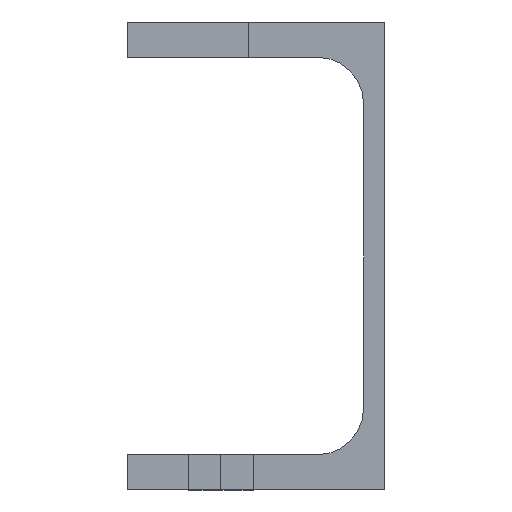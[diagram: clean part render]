
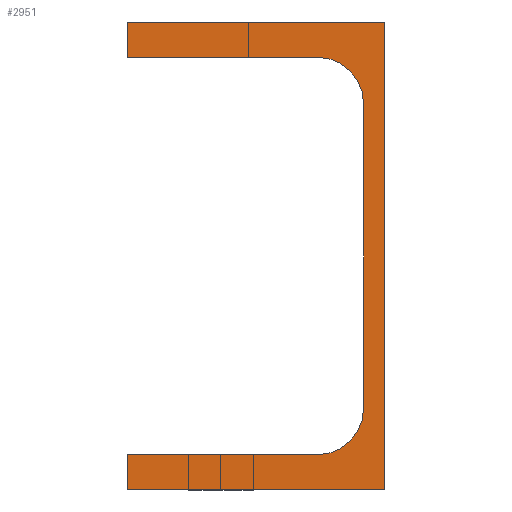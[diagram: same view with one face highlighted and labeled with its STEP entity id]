
A CAD part, left-side view. The second image highlights one B-rep face of the part: STEP entity #2951.
In plain terms, the highlighted planar face has unit normal (-1, 0, 0).
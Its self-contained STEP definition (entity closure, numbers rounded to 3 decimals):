
#101 = CARTESIAN_POINT ( 'NONE',  ( -55., 2014.5, 2372.5 ) ) ;
#122 = LINE ( 'NONE', #2868, #1643 ) ;
#220 = CARTESIAN_POINT ( 'NONE',  ( -55., 2000., 2290. ) ) ;
#234 = CARTESIAN_POINT ( 'NONE',  ( -55., 2055., 2390. ) ) ;
#352 = EDGE_CURVE ( 'NONE', #1534, #1949, #3183, .T. ) ;
#374 = VERTEX_POINT ( 'NONE', #3860 ) ;
#420 = DIRECTION ( 'NONE',  ( 0., 0., -1. ) ) ;
#461 = CIRCLE ( 'NONE', #2695, 10. ) ;
#470 = PLANE ( 'NONE',  #2176 ) ;
#545 = CARTESIAN_POINT ( 'NONE',  ( -55., 2055., 2382.5 ) ) ;
#605 = VECTOR ( 'NONE', #2396, 1000. ) ;
#626 = CARTESIAN_POINT ( 'NONE',  ( -55., 2000., 2390. ) ) ;
#872 = CARTESIAN_POINT ( 'NONE',  ( -55., 2055., 2290. ) ) ;
#922 = EDGE_CURVE ( 'NONE', #1690, #1534, #1828, .T. ) ;
#974 = CARTESIAN_POINT ( 'NONE',  ( -55., 2000., 2390. ) ) ;
#981 = LINE ( 'NONE', #626, #4281 ) ;
#984 = LINE ( 'NONE', #3052, #605 ) ;
#1021 = DIRECTION ( 'NONE',  ( 1., 0., 0. ) ) ;
#1120 = CARTESIAN_POINT ( 'NONE',  ( -55., 2004.5, 2307.5 ) ) ;
#1152 = VECTOR ( 'NONE', #3122, 1000. ) ;
#1256 = VERTEX_POINT ( 'NONE', #1120 ) ;
#1304 = ORIENTED_EDGE ( 'NONE', *, *, #922, .T. ) ;
#1312 = DIRECTION ( 'NONE',  ( 0., 1., 0. ) ) ;
#1379 = CARTESIAN_POINT ( 'NONE',  ( -55., 2014.5, 2297.5 ) ) ;
#1427 = VERTEX_POINT ( 'NONE', #234 ) ;
#1454 = DIRECTION ( 'NONE',  ( 1., 0., 0. ) ) ;
#1456 = CARTESIAN_POINT ( 'NONE',  ( -55., 2055., 2290. ) ) ;
#1534 = VERTEX_POINT ( 'NONE', #872 ) ;
#1634 = CARTESIAN_POINT ( 'NONE',  ( -55., 2055., 2382.5 ) ) ;
#1643 = VECTOR ( 'NONE', #4182, 1000. ) ;
#1690 = VERTEX_POINT ( 'NONE', #3592 ) ;
#1769 = ORIENTED_EDGE ( 'NONE', *, *, #352, .T. ) ;
#1828 = LINE ( 'NONE', #3515, #3735 ) ;
#1831 = CARTESIAN_POINT ( 'NONE',  ( -55., 3690., 2340. ) ) ;
#1926 = VERTEX_POINT ( 'NONE', #1634 ) ;
#1949 = VERTEX_POINT ( 'NONE', #220 ) ;
#2033 = EDGE_CURVE ( 'NONE', #374, #1256, #122, .T. ) ;
#2176 = AXIS2_PLACEMENT_3D ( 'NONE', #1831, #3758, #2860 ) ;
#2199 = VERTEX_POINT ( 'NONE', #4026 ) ;
#2260 = VECTOR ( 'NONE', #3774, 1000. ) ;
#2264 = VECTOR ( 'NONE', #3120, 1000. ) ;
#2379 = VECTOR ( 'NONE', #2468, 1000. ) ;
#2396 = DIRECTION ( 'NONE',  ( 0., 0., 1. ) ) ;
#2457 = EDGE_CURVE ( 'NONE', #1427, #1926, #3055, .T. ) ;
#2464 = LINE ( 'NONE', #1379, #2264 ) ;
#2468 = DIRECTION ( 'NONE',  ( 0., -1., 0. ) ) ;
#2695 = AXIS2_PLACEMENT_3D ( 'NONE', #3405, #1021, #3166 ) ;
#2860 = DIRECTION ( 'NONE',  ( 0., 0., 1. ) ) ;
#2868 = CARTESIAN_POINT ( 'NONE',  ( -55., 2004.5, 2372.5 ) ) ;
#2872 = ORIENTED_EDGE ( 'NONE', *, *, #3088, .T. ) ;
#2951 = ADVANCED_FACE ( 'NONE', ( #3072 ), #470, .T. ) ;
#3052 = CARTESIAN_POINT ( 'NONE',  ( -55., 2000., 2290. ) ) ;
#3055 = LINE ( 'NONE', #3433, #1152 ) ;
#3072 = FACE_OUTER_BOUND ( 'NONE', #4452, .T. ) ;
#3088 = EDGE_CURVE ( 'NONE', #3679, #374, #3696, .T. ) ;
#3120 = DIRECTION ( 'NONE',  ( 0., 1., 0. ) ) ;
#3122 = DIRECTION ( 'NONE',  ( 0., 0., -1. ) ) ;
#3154 = ORIENTED_EDGE ( 'NONE', *, *, #3633, .T. ) ;
#3166 = DIRECTION ( 'NONE',  ( 0., 0., 1. ) ) ;
#3183 = LINE ( 'NONE', #1456, #2379 ) ;
#3255 = ORIENTED_EDGE ( 'NONE', *, *, #3478, .T. ) ;
#3331 = ORIENTED_EDGE ( 'NONE', *, *, #3539, .T. ) ;
#3405 = CARTESIAN_POINT ( 'NONE',  ( -55., 2014.5, 2307.5 ) ) ;
#3433 = CARTESIAN_POINT ( 'NONE',  ( -55., 2055., 2390. ) ) ;
#3468 = ORIENTED_EDGE ( 'NONE', *, *, #3712, .T. ) ;
#3478 = EDGE_CURVE ( 'NONE', #1926, #3679, #4104, .T. ) ;
#3515 = CARTESIAN_POINT ( 'NONE',  ( -55., 2055., 2297.5 ) ) ;
#3539 = EDGE_CURVE ( 'NONE', #1256, #2199, #461, .T. ) ;
#3592 = CARTESIAN_POINT ( 'NONE',  ( -55., 2055., 2297.5 ) ) ;
#3633 = EDGE_CURVE ( 'NONE', #1949, #4250, #984, .T. ) ;
#3679 = VERTEX_POINT ( 'NONE', #4238 ) ;
#3696 = CIRCLE ( 'NONE', #4112, 10. ) ;
#3712 = EDGE_CURVE ( 'NONE', #2199, #1690, #2464, .T. ) ;
#3735 = VECTOR ( 'NONE', #420, 1000. ) ;
#3758 = DIRECTION ( 'NONE',  ( -1., 0., 0. ) ) ;
#3766 = DIRECTION ( 'NONE',  ( 0., 0., 1. ) ) ;
#3774 = DIRECTION ( 'NONE',  ( 0., -1., 0. ) ) ;
#3827 = ORIENTED_EDGE ( 'NONE', *, *, #2033, .T. ) ;
#3860 = CARTESIAN_POINT ( 'NONE',  ( -55., 2004.5, 2372.5 ) ) ;
#3906 = EDGE_CURVE ( 'NONE', #4250, #1427, #981, .T. ) ;
#3948 = ORIENTED_EDGE ( 'NONE', *, *, #2457, .T. ) ;
#4026 = CARTESIAN_POINT ( 'NONE',  ( -55., 2014.5, 2297.5 ) ) ;
#4104 = LINE ( 'NONE', #545, #2260 ) ;
#4108 = ORIENTED_EDGE ( 'NONE', *, *, #3906, .T. ) ;
#4112 = AXIS2_PLACEMENT_3D ( 'NONE', #101, #1454, #3766 ) ;
#4182 = DIRECTION ( 'NONE',  ( 0., 0., -1. ) ) ;
#4238 = CARTESIAN_POINT ( 'NONE',  ( -55., 2014.5, 2382.5 ) ) ;
#4250 = VERTEX_POINT ( 'NONE', #974 ) ;
#4281 = VECTOR ( 'NONE', #1312, 1000. ) ;
#4452 = EDGE_LOOP ( 'NONE', ( #1304, #1769, #3154, #4108, #3948, #3255, #2872, #3827, #3331, #3468 ) ) ;
